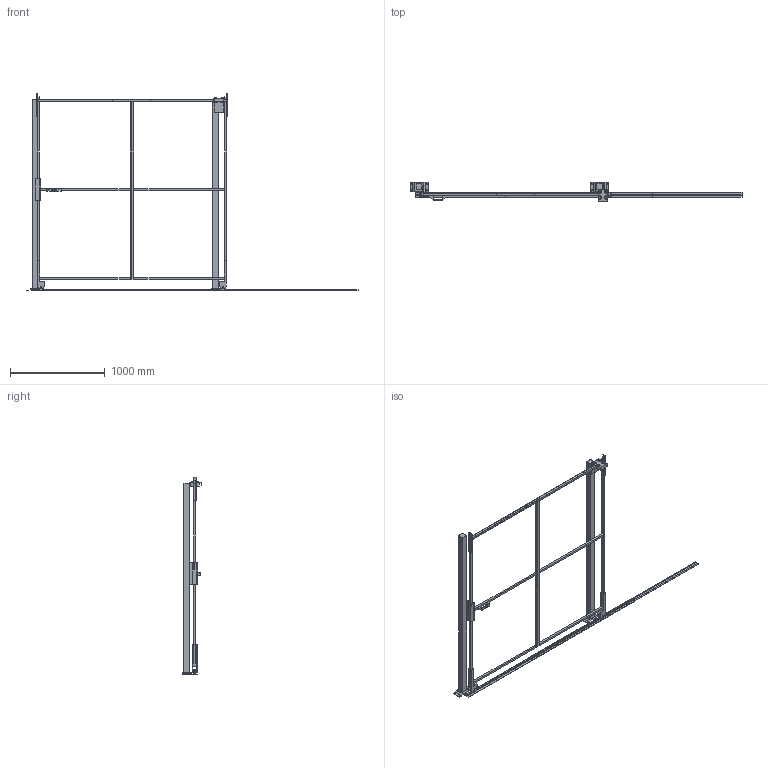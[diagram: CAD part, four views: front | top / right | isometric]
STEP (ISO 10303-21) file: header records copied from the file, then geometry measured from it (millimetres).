
FILE_DESCRIPTION(/* description */ (''),/* implementation_level */ '2;1');
FILE_NAME(/* name */ 'C:\SafeGuarding\ELABORATI\Drawing5_2025-04-02-11-48-30.stp',/* time_stamp */ '2025-04-02T11:48:33+02:00',/* author */ ('admin'),/* organization */ (''),/* preprocessor_version */ 'ST-DEVELOPER v18.1',/* originating_system */ 'AutoCAD Mechanical',/* authorisation */ '');
FILE_SCHEMA (('AUTOMOTIVE_DESIGN { 1 0 10303 214 3 1 1 }'));
Length unit declared in the file: millimetre
Products named in the file (3): Product; R_VFPA.REPE20.10001900; P_VFMA.V260SDU.2020
Assembly tree (4 placements, depth 2):
  Product
    R_VFPA.REPE20.10001900  x2
    P_VFMA.V260SDU.2020  x2
Bounding box: 3511.45 x 210 x 2090 mm (x, y, z)
Volume: 22294082.1 mm3; surface area: 3544520.1 mm2
Topology: 40 solids, 51 shells, 387 faces, 1227 edges, 1233 vertices
Faces by surface type: plane 341, cylinder 40, cone 4, sphere 2
Full cylindrical faces by diameter (mm): 9 x4, 11 x8, 13 x4, 18 x4, 30 x2, 36 x4, 58 x4
Entity records: 11446 total; most frequent: CARTESIAN_POINT 2429, DIRECTION 1750, ORIENTED_EDGE 1622, EDGE_CURVE 860, LINE 778, VECTOR 778, VERTEX_POINT 614, AXIS2_PLACEMENT_3D 486
